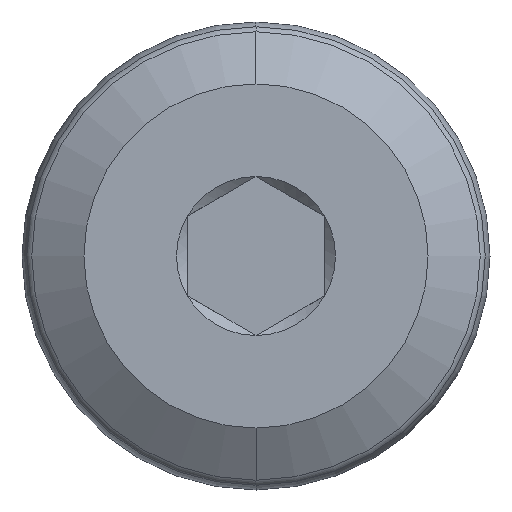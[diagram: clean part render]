
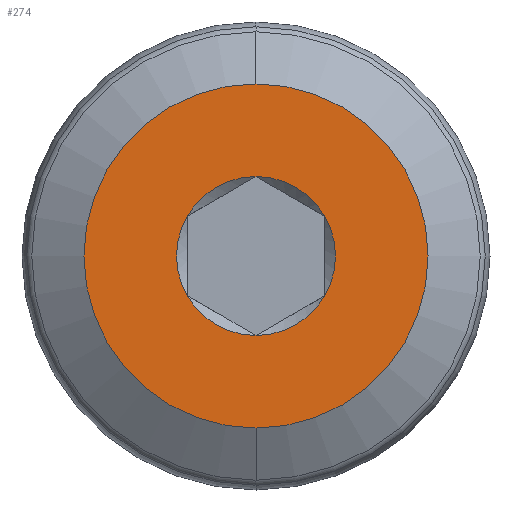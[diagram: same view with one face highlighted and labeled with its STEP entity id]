
A CAD part, left-side view. The second image highlights one B-rep face of the part: STEP entity #274.
In plain terms, the highlighted planar face has unit normal (-1, 0, 0).
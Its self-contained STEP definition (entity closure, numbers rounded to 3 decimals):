
#9 = DIRECTION ( 'NONE',  ( 1., 0., 0. ) ) ;
#12 = DIRECTION ( 'NONE',  ( 0., 0., -1. ) ) ;
#14 = VERTEX_POINT ( 'NONE', #38 ) ;
#26 = AXIS2_PLACEMENT_3D ( 'NONE', #725, #81, #12 ) ;
#30 = CARTESIAN_POINT ( 'NONE',  ( 0., 0., 2.5 ) ) ;
#32 = DIRECTION ( 'NONE',  ( 0., 0., -1. ) ) ;
#38 = CARTESIAN_POINT ( 'NONE',  ( 0., 0., -1.155 ) ) ;
#56 = EDGE_LOOP ( 'NONE', ( #409, #767, #394, #389, #530, #225 ) ) ;
#72 = CARTESIAN_POINT ( 'NONE',  ( 0., 0., 0. ) ) ;
#77 = ORIENTED_EDGE ( 'NONE', *, *, #186, .F. ) ;
#81 = DIRECTION ( 'NONE',  ( 1., 0., 0. ) ) ;
#90 = CIRCLE ( 'NONE', #438, 2.5 ) ;
#91 = DIRECTION ( 'NONE',  ( 1., 0., 0. ) ) ;
#101 = EDGE_LOOP ( 'NONE', ( #702, #77 ) ) ;
#116 = VERTEX_POINT ( 'NONE', #30 ) ;
#140 = CARTESIAN_POINT ( 'NONE',  ( 0., -1., -0.577 ) ) ;
#150 = VERTEX_POINT ( 'NONE', #243 ) ;
#152 = DIRECTION ( 'NONE',  ( 0., 0., -1. ) ) ;
#153 = VERTEX_POINT ( 'NONE', #140 ) ;
#178 = EDGE_CURVE ( 'NONE', #150, #329, #425, .T. ) ;
#182 = AXIS2_PLACEMENT_3D ( 'NONE', #201, #624, #759 ) ;
#184 = CARTESIAN_POINT ( 'NONE',  ( 0., 2.5, 0. ) ) ;
#186 = EDGE_CURVE ( 'NONE', #116, #593, #90, .T. ) ;
#201 = CARTESIAN_POINT ( 'NONE',  ( 0., 0., 0. ) ) ;
#209 = DIRECTION ( 'NONE',  ( 0., 0., -1. ) ) ;
#214 = DIRECTION ( 'NONE',  ( 1., 0., 0. ) ) ;
#225 = ORIENTED_EDGE ( 'NONE', *, *, #300, .T. ) ;
#242 = EDGE_CURVE ( 'NONE', #153, #14, #366, .T. ) ;
#243 = CARTESIAN_POINT ( 'NONE',  ( 0., 1., 0.577 ) ) ;
#249 = CIRCLE ( 'NONE', #662, 1.155 ) ;
#259 = CARTESIAN_POINT ( 'NONE',  ( 0., 0., 0. ) ) ;
#262 = EDGE_CURVE ( 'NONE', #14, #398, #390, .T. ) ;
#274 = ADVANCED_FACE ( 'NONE', ( #549, #534 ), #489, .T. ) ;
#296 = EDGE_CURVE ( 'NONE', #593, #116, #377, .T. ) ;
#300 = EDGE_CURVE ( 'NONE', #398, #150, #511, .T. ) ;
#329 = VERTEX_POINT ( 'NONE', #748 ) ;
#338 = CARTESIAN_POINT ( 'NONE',  ( 0., 0., -2.5 ) ) ;
#355 = AXIS2_PLACEMENT_3D ( 'NONE', #568, #496, #152 ) ;
#358 = EDGE_CURVE ( 'NONE', #639, #153, #589, .T. ) ;
#362 = CARTESIAN_POINT ( 'NONE',  ( 0., 0., 0. ) ) ;
#366 = CIRCLE ( 'NONE', #26, 1.155 ) ;
#377 = CIRCLE ( 'NONE', #733, 2.5 ) ;
#388 = CARTESIAN_POINT ( 'NONE',  ( 0., 1., -0.577 ) ) ;
#389 = ORIENTED_EDGE ( 'NONE', *, *, #242, .T. ) ;
#390 = CIRCLE ( 'NONE', #762, 1.155 ) ;
#394 = ORIENTED_EDGE ( 'NONE', *, *, #358, .T. ) ;
#398 = VERTEX_POINT ( 'NONE', #388 ) ;
#409 = ORIENTED_EDGE ( 'NONE', *, *, #178, .T. ) ;
#420 = CARTESIAN_POINT ( 'NONE',  ( 0., -1., 0.577 ) ) ;
#421 = DIRECTION ( 'NONE',  ( 0., 0., 1. ) ) ;
#425 = CIRCLE ( 'NONE', #497, 1.155 ) ;
#430 = EDGE_CURVE ( 'NONE', #329, #639, #249, .T. ) ;
#438 = AXIS2_PLACEMENT_3D ( 'NONE', #545, #672, #596 ) ;
#482 = DIRECTION ( 'NONE',  ( 0., 0., -1. ) ) ;
#489 = PLANE ( 'NONE',  #491 ) ;
#491 = AXIS2_PLACEMENT_3D ( 'NONE', #184, #492, #421 ) ;
#492 = DIRECTION ( 'NONE',  ( -1., 0., 0. ) ) ;
#496 = DIRECTION ( 'NONE',  ( 1., 0., 0. ) ) ;
#497 = AXIS2_PLACEMENT_3D ( 'NONE', #362, #610, #482 ) ;
#501 = CARTESIAN_POINT ( 'NONE',  ( 0., 0., 0. ) ) ;
#511 = CIRCLE ( 'NONE', #182, 1.155 ) ;
#530 = ORIENTED_EDGE ( 'NONE', *, *, #262, .T. ) ;
#534 = FACE_OUTER_BOUND ( 'NONE', #101, .T. ) ;
#545 = CARTESIAN_POINT ( 'NONE',  ( 0., 0., 0. ) ) ;
#547 = DIRECTION ( 'NONE',  ( 0., 0., -1. ) ) ;
#549 = FACE_BOUND ( 'NONE', #56, .T. ) ;
#568 = CARTESIAN_POINT ( 'NONE',  ( 0., 0., 0. ) ) ;
#589 = CIRCLE ( 'NONE', #355, 1.155 ) ;
#593 = VERTEX_POINT ( 'NONE', #338 ) ;
#596 = DIRECTION ( 'NONE',  ( 0., 0., -1. ) ) ;
#610 = DIRECTION ( 'NONE',  ( 1., 0., 0. ) ) ;
#624 = DIRECTION ( 'NONE',  ( 1., 0., 0. ) ) ;
#639 = VERTEX_POINT ( 'NONE', #420 ) ;
#662 = AXIS2_PLACEMENT_3D ( 'NONE', #501, #91, #209 ) ;
#672 = DIRECTION ( 'NONE',  ( 1., 0., 0. ) ) ;
#702 = ORIENTED_EDGE ( 'NONE', *, *, #296, .F. ) ;
#725 = CARTESIAN_POINT ( 'NONE',  ( 0., 0., 0. ) ) ;
#733 = AXIS2_PLACEMENT_3D ( 'NONE', #259, #214, #32 ) ;
#748 = CARTESIAN_POINT ( 'NONE',  ( 0., 0., 1.155 ) ) ;
#759 = DIRECTION ( 'NONE',  ( 0., 0., -1. ) ) ;
#762 = AXIS2_PLACEMENT_3D ( 'NONE', #72, #9, #547 ) ;
#767 = ORIENTED_EDGE ( 'NONE', *, *, #430, .T. ) ;
